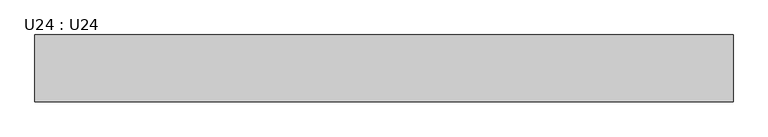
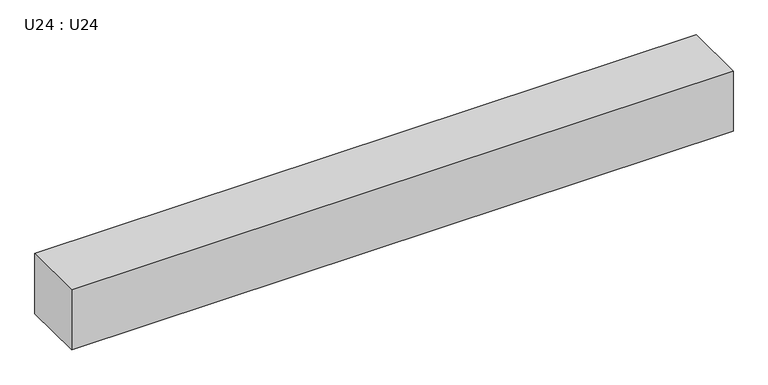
"""IFC4 building model written with IfcOpenShell, lengths in millimetres: beam geometry, U24 : U24."""

from ifc_helpers import new_model, si_unit, frame, origin, place, context, project, spatial, polyline, outline, extrude, source, transform, mapped, element, save


def u24_u24_97426e7e(model_context):
    return source(origin(), model_context, "Body", "SweptSolid", [
        extrude(outline(polyline([(-1250.0, -120.0), (-1250.0, 120.0), (1250.0, 120.0), (1250.0, -120.0), (-1250.0, -120.0)])), frame((0.0, 0.0, -120.0), z_axis=(0.0, 0.0, 1.0), x_axis=(1.0, 0.0, 0.0)), (0.0, 0.0, 1.0), 240.0),
    ])


if __name__ == "__main__":
    model = new_model("IFC4")
    model_context = context("Model", 3, world=origin())
    ifc_project = project(units=[si_unit("LENGTHUNIT", "METRE", prefix="MILLI")], contexts=[model_context])
    site = spatial("IfcSite", under=ifc_project)
    building = spatial("IfcBuilding", under=site)
    placement = place(None, origin())
    u24_u24_shape = u24_u24_97426e7e(model_context)
    element("IfcBeam", 1, ObjectType="U24 : U24", at=placement, inside=building, context=model_context, shape_type="MappedRepresentation", body=[
        mapped(u24_u24_shape, transform((0.0, 0.0, 0.0), x_axis=(1.0, 0.0, 0.0), y_axis=(0.0, 1.0, 0.0), z_axis=(0.0, 0.0, 1.0))),
    ])
    save(model, "model.ifc")
